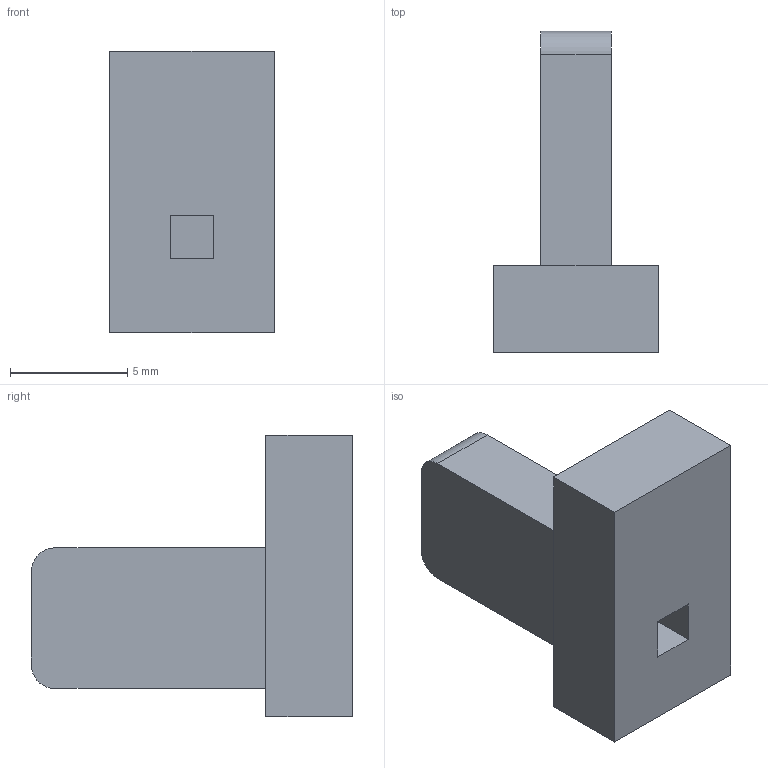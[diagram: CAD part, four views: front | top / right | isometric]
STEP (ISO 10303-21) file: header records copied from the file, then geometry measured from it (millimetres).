
FILE_DESCRIPTION((''),'2;1');
FILE_NAME('SWITCH','2026-04-19T',('Administrator'),(''),'PRO/ENGINEER BY PARAMETRIC TECHNOLOGY CORPORATION, 2013150','PRO/ENGINEER BY PARAMETRIC TECHNOLOGY CORPORATION, 2013150','');
FILE_SCHEMA(('CONFIG_CONTROL_DESIGN'));
Length unit declared in the file: millimetre
Products named in the file (1): SWITCH
Bounding box: 7 x 13.7 x 12 mm (x, y, z)
Volume: 477.5 mm3; surface area: 511.1 mm2
Topology: 1 solids, 1 shells, 18 faces, 42 edges, 28 vertices
Faces by surface type: plane 16, cylinder 2
Entity records: 548 total; most frequent: CARTESIAN_POINT 88, ORIENTED_EDGE 84, DIRECTION 82, EDGE_CURVE 42, VECTOR 38, LINE 38, VERTEX_POINT 28, AXIS2_PLACEMENT_3D 22
